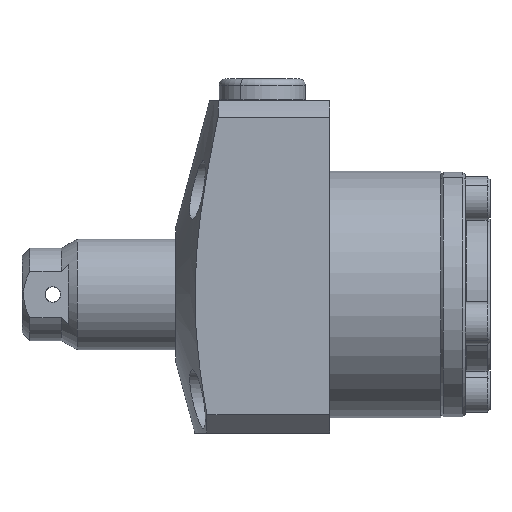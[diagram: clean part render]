
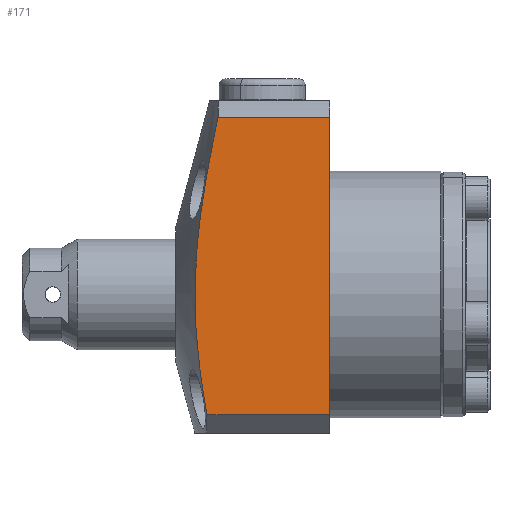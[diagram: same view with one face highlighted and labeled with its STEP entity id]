
A CAD part, left-side view. The second image highlights one B-rep face of the part: STEP entity #171.
In plain terms, the highlighted planar face has unit normal (-1, 0, 0).
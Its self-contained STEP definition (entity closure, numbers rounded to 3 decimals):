
#171 = ADVANCED_FACE ( 'NONE', ( #4500 ), #4501, .F. ) ;
#396 = CARTESIAN_POINT ( 'NONE',  ( -22.5, 18.167, 28.74 ) ) ;
#397 = CARTESIAN_POINT ( 'NONE',  ( -22.5, 0., -19.5 ) ) ;
#398 = CARTESIAN_POINT ( 'NONE',  ( -22.5, 0., 28.74 ) ) ;
#399 = CARTESIAN_POINT ( 'NONE',  ( -22.5, 19.969, -19.5 ) ) ;
#1071 = ORIENTED_EDGE ( 'NONE', *, *, #1760, .F. ) ;
#1072 = ORIENTED_EDGE ( 'NONE', *, *, #1771, .T. ) ;
#1073 = ORIENTED_EDGE ( 'NONE', *, *, #1772, .F. ) ;
#1074 = ORIENTED_EDGE ( 'NONE', *, *, #1773, .T. ) ;
#1760 = EDGE_CURVE ( 'NONE', #2912, #2909, #4302, .T. ) ;
#1771 = EDGE_CURVE ( 'NONE', #2912, #2910, #5483, .T. ) ;
#1772 = EDGE_CURVE ( 'NONE', #2911, #2910, #5494, .T. ) ;
#1773 = EDGE_CURVE ( 'NONE', #2911, #2909, #5503, .T. ) ;
#2844 = EDGE_LOOP ( 'NONE', ( #1071, #1072, #1073, #1074 ) ) ;
#2909 = VERTEX_POINT ( 'NONE', #396 ) ;
#2910 = VERTEX_POINT ( 'NONE', #397 ) ;
#2911 = VERTEX_POINT ( 'NONE', #398 ) ;
#2912 = VERTEX_POINT ( 'NONE', #399 ) ;
#3731 = AXIS2_PLACEMENT_3D ( 'NONE', #4492, #4503, #4504 ) ;
#4129 = VECTOR ( 'NONE', #5500, 1000. ) ;
#4130 = VECTOR ( 'NONE', #5502, 1000. ) ;
#4132 = VECTOR ( 'NONE', #5505, 1000. ) ;
#4302 = B_SPLINE_CURVE_WITH_KNOTS ( 'NONE', 3,
 ( #5380, #5379, #5384, #5385, #5386, #5387, #5388, #5389, #5390, #5391, #5392, #5393, #5394, #5395, #5396, #5397, #5398, #5399, #5400, #5401 ),
 .UNSPECIFIED., .F., .F.,
 ( 4, 2, 2, 2, 2, 2, 2, 2, 2, 4 ),
 ( 0.025, 0.031, 0.037, 0.043, 0.049, 0.055, 0.058, 0.061, 0.068, 0.074 ),
 .UNSPECIFIED. ) ;
#4492 = CARTESIAN_POINT ( 'NONE',  ( -22.5, 25., 31.5 ) ) ;
#4500 = FACE_OUTER_BOUND ( 'NONE', #2844, .T. ) ;
#4501 = PLANE ( 'NONE',  #3731 ) ;
#4503 = DIRECTION ( 'NONE',  ( 1., 0., 0. ) ) ;
#4504 = DIRECTION ( 'NONE',  ( 0., 0., -1. ) ) ;
#5379 = CARTESIAN_POINT ( 'NONE',  ( -22.5, 20.321, -17.497 ) ) ;
#5380 = CARTESIAN_POINT ( 'NONE',  ( -22.5, 19.969, -19.5 ) ) ;
#5384 = CARTESIAN_POINT ( 'NONE',  ( -22.5, 20.643, -15.485 ) ) ;
#5385 = CARTESIAN_POINT ( 'NONE',  ( -22.5, 21.197, -11.462 ) ) ;
#5386 = CARTESIAN_POINT ( 'NONE',  ( -22.5, 21.429, -9.449 ) ) ;
#5387 = CARTESIAN_POINT ( 'NONE',  ( -22.5, 21.767, -5.422 ) ) ;
#5388 = CARTESIAN_POINT ( 'NONE',  ( -22.5, 21.874, -3.407 ) ) ;
#5389 = CARTESIAN_POINT ( 'NONE',  ( -22.5, 21.94, 0.626 ) ) ;
#5390 = CARTESIAN_POINT ( 'NONE',  ( -22.5, 21.9, 2.644 ) ) ;
#5391 = CARTESIAN_POINT ( 'NONE',  ( -22.5, 21.681, 6.682 ) ) ;
#5392 = CARTESIAN_POINT ( 'NONE',  ( -22.5, 21.502, 8.703 ) ) ;
#5393 = CARTESIAN_POINT ( 'NONE',  ( -22.5, 21.152, 11.735 ) ) ;
#5394 = CARTESIAN_POINT ( 'NONE',  ( -22.5, 21.022, 12.747 ) ) ;
#5395 = CARTESIAN_POINT ( 'NONE',  ( -22.5, 20.74, 14.764 ) ) ;
#5396 = CARTESIAN_POINT ( 'NONE',  ( -22.5, 20.588, 15.77 ) ) ;
#5397 = CARTESIAN_POINT ( 'NONE',  ( -22.5, 20.106, 18.781 ) ) ;
#5398 = CARTESIAN_POINT ( 'NONE',  ( -22.5, 19.749, 20.78 ) ) ;
#5399 = CARTESIAN_POINT ( 'NONE',  ( -22.5, 18.989, 24.767 ) ) ;
#5400 = CARTESIAN_POINT ( 'NONE',  ( -22.5, 18.586, 26.756 ) ) ;
#5401 = CARTESIAN_POINT ( 'NONE',  ( -22.5, 18.167, 28.74 ) ) ;
#5483 = LINE ( 'NONE', #5499, #4129 ) ;
#5494 = LINE ( 'NONE', #5501, #4130 ) ;
#5499 = CARTESIAN_POINT ( 'NONE',  ( -22.5, 25., -19.5 ) ) ;
#5500 = DIRECTION ( 'NONE',  ( 0., -1., 0. ) ) ;
#5501 = CARTESIAN_POINT ( 'NONE',  ( -22.5, 0., -22.5 ) ) ;
#5502 = DIRECTION ( 'NONE',  ( 0., 0., -1. ) ) ;
#5503 = LINE ( 'NONE', #5504, #4132 ) ;
#5504 = CARTESIAN_POINT ( 'NONE',  ( -22.5, 0., 28.74 ) ) ;
#5505 = DIRECTION ( 'NONE',  ( 0., 1., 0. ) ) ;
